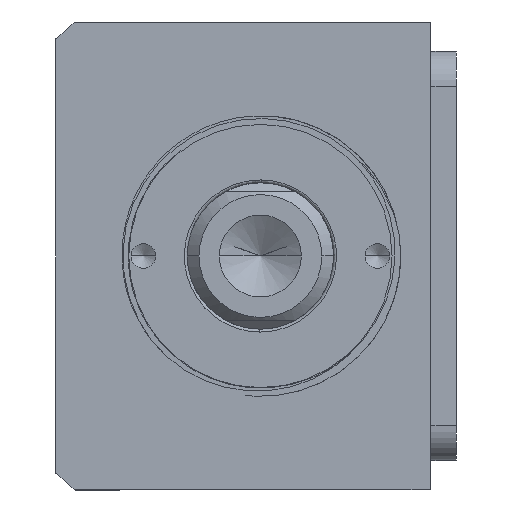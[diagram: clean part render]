
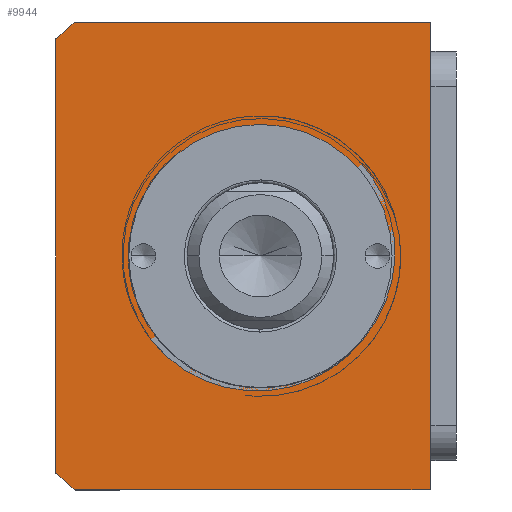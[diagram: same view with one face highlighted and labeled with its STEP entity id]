
A CAD part, front view. The second image highlights one B-rep face of the part: STEP entity #9944.
In plain terms, the highlighted planar face has unit normal (0, -1, 0) as drawn and (0, 0, 1) by its records, which use the part's own axes.
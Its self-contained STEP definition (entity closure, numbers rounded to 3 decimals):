
#69 = EDGE_CURVE ( 'NONE', #8583, #732, #3475, .T. ) ;
#115 = DIRECTION ( 'NONE',  ( 1., 0., 0. ) ) ;
#732 = VERTEX_POINT ( 'NONE', #8337 ) ;
#799 = EDGE_CURVE ( 'NONE', #5745, #8054, #8557, .T. ) ;
#1301 = DIRECTION ( 'NONE',  ( 1., 0., 0. ) ) ;
#1623 = DIRECTION ( 'NONE',  ( 0., 0., 1. ) ) ;
#1739 = ORIENTED_EDGE ( 'NONE', *, *, #69, .T. ) ;
#1839 = FACE_BOUND ( 'NONE', #7932, .T. ) ;
#2201 = DIRECTION ( 'NONE',  ( 1., 0., 0. ) ) ;
#2297 = VECTOR ( 'NONE', #10514, 1000. ) ;
#2476 = CARTESIAN_POINT ( 'NONE',  ( 40., -11.507, 160. ) ) ;
#2725 = CARTESIAN_POINT ( 'NONE',  ( -40., -11.507, 160. ) ) ;
#2787 = DIRECTION ( 'NONE',  ( 0., 0., 1. ) ) ;
#3155 = DIRECTION ( 'NONE',  ( 0., 0., 1. ) ) ;
#3156 = CARTESIAN_POINT ( 'NONE',  ( -40., -72.145, 160. ) ) ;
#3199 = EDGE_CURVE ( 'NONE', #3938, #5745, #9545, .T. ) ;
#3235 = AXIS2_PLACEMENT_3D ( 'NONE', #9893, #4990, #115 ) ;
#3475 = CIRCLE ( 'NONE', #6056, 51. ) ;
#3522 = CARTESIAN_POINT ( 'NONE',  ( 40., -11.507, 160. ) ) ;
#3741 = CARTESIAN_POINT ( 'NONE',  ( 37.094, -75.507, 160. ) ) ;
#3854 = ORIENTED_EDGE ( 'NONE', *, *, #9219, .T. ) ;
#3938 = VERTEX_POINT ( 'NONE', #2476 ) ;
#4058 = ORIENTED_EDGE ( 'NONE', *, *, #4628, .F. ) ;
#4112 = EDGE_LOOP ( 'NONE', ( #8273, #3854, #9677, #1739, #6898, #5191 ) ) ;
#4174 = CARTESIAN_POINT ( 'NONE',  ( -37.094, -75.507, 160. ) ) ;
#4257 = CIRCLE ( 'NONE', #3235, 22.5 ) ;
#4266 = FACE_OUTER_BOUND ( 'NONE', #4112, .T. ) ;
#4279 = EDGE_CURVE ( 'NONE', #6413, #8583, #5702, .T. ) ;
#4378 = VERTEX_POINT ( 'NONE', #4821 ) ;
#4628 = EDGE_CURVE ( 'NONE', #4378, #6381, #4257, .T. ) ;
#4650 = CIRCLE ( 'NONE', #9100, 22.5 ) ;
#4663 = CARTESIAN_POINT ( 'NONE',  ( -40., -11.507, 160. ) ) ;
#4703 = DIRECTION ( 'NONE',  ( 0., 0., 1. ) ) ;
#4770 = VECTOR ( 'NONE', #10042, 1000. ) ;
#4821 = CARTESIAN_POINT ( 'NONE',  ( -22.5, -40.507, 160. ) ) ;
#4990 = DIRECTION ( 'NONE',  ( 0., 0., 1. ) ) ;
#5191 = ORIENTED_EDGE ( 'NONE', *, *, #3199, .T. ) ;
#5412 = AXIS2_PLACEMENT_3D ( 'NONE', #7130, #4703, #10411 ) ;
#5493 = ORIENTED_EDGE ( 'NONE', *, *, #9423, .F. ) ;
#5702 = LINE ( 'NONE', #6179, #9796 ) ;
#5745 = VERTEX_POINT ( 'NONE', #4663 ) ;
#6036 = DIRECTION ( 'NONE',  ( -1., 0., 0. ) ) ;
#6056 = AXIS2_PLACEMENT_3D ( 'NONE', #8751, #1623, #2201 ) ;
#6179 = CARTESIAN_POINT ( 'NONE',  ( -40., -75.507, 160. ) ) ;
#6315 = PLANE ( 'NONE',  #5412 ) ;
#6381 = VERTEX_POINT ( 'NONE', #7382 ) ;
#6413 = VERTEX_POINT ( 'NONE', #4174 ) ;
#6898 = ORIENTED_EDGE ( 'NONE', *, *, #7701, .T. ) ;
#6938 = LINE ( 'NONE', #3522, #4770 ) ;
#7130 = CARTESIAN_POINT ( 'NONE',  ( 0., 0., 160. ) ) ;
#7336 = CIRCLE ( 'NONE', #8003, 51. ) ;
#7380 = VECTOR ( 'NONE', #6036, 1000. ) ;
#7382 = CARTESIAN_POINT ( 'NONE',  ( 22.5, -40.507, 160. ) ) ;
#7678 = CARTESIAN_POINT ( 'NONE',  ( 0., -40.507, 160. ) ) ;
#7701 = EDGE_CURVE ( 'NONE', #732, #3938, #6938, .T. ) ;
#7932 = EDGE_LOOP ( 'NONE', ( #5493, #4058 ) ) ;
#8003 = AXIS2_PLACEMENT_3D ( 'NONE', #7678, #2787, #8494 ) ;
#8031 = CARTESIAN_POINT ( 'NONE',  ( 0., -40.507, 160. ) ) ;
#8054 = VERTEX_POINT ( 'NONE', #3156 ) ;
#8273 = ORIENTED_EDGE ( 'NONE', *, *, #799, .T. ) ;
#8337 = CARTESIAN_POINT ( 'NONE',  ( 40., -72.145, 160. ) ) ;
#8399 = CARTESIAN_POINT ( 'NONE',  ( -40., -11.507, 160. ) ) ;
#8494 = DIRECTION ( 'NONE',  ( 1., 0., 0. ) ) ;
#8557 = LINE ( 'NONE', #8399, #2297 ) ;
#8583 = VERTEX_POINT ( 'NONE', #3741 ) ;
#8751 = CARTESIAN_POINT ( 'NONE',  ( 0., -40.507, 160. ) ) ;
#8861 = DIRECTION ( 'NONE',  ( 1., 0., 0. ) ) ;
#9100 = AXIS2_PLACEMENT_3D ( 'NONE', #8031, #3155, #8861 ) ;
#9219 = EDGE_CURVE ( 'NONE', #8054, #6413, #7336, .T. ) ;
#9423 = EDGE_CURVE ( 'NONE', #6381, #4378, #4650, .T. ) ;
#9545 = LINE ( 'NONE', #2725, #7380 ) ;
#9677 = ORIENTED_EDGE ( 'NONE', *, *, #4279, .T. ) ;
#9796 = VECTOR ( 'NONE', #1301, 1000. ) ;
#9893 = CARTESIAN_POINT ( 'NONE',  ( 0., -40.507, 160. ) ) ;
#9944 = ADVANCED_FACE ( 'NONE', ( #1839, #4266 ), #6315, .T. ) ;
#10042 = DIRECTION ( 'NONE',  ( 0., 1., 0. ) ) ;
#10411 = DIRECTION ( 'NONE',  ( 1., 0., 0. ) ) ;
#10514 = DIRECTION ( 'NONE',  ( 0., -1., 0. ) ) ;
